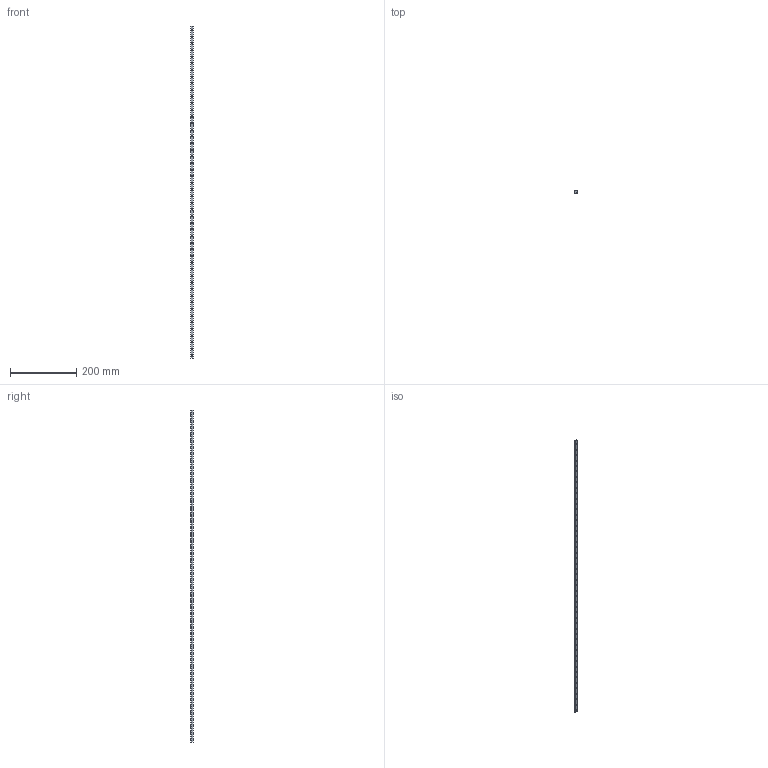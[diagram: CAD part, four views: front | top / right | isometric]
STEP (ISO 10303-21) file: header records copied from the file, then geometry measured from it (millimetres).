
FILE_DESCRIPTION (( 'STEP AP214' ), '1' );
FILE_NAME ('7.0025 Lineaarijohde MTN9 1000 mm.STEP', '2026-03-09T11:07:30', ( '' ), ( '' ), 'SwSTEP 2.0', 'SolidWorks 2025', '' );
FILE_SCHEMA (( 'AUTOMOTIVE_DESIGN' ));
Length unit declared in the file: millimetre
Products named in the file (1): 7.0025 Lineaarijohde MTN9 1000 mm
Bounding box: 9 x 6.5 x 1000 mm (x, y, z)
Volume: 48887.2 mm3; surface area: 36911 mm2
Topology: 1 solids, 1 shells, 265 faces, 639 edges, 426 vertices
Faces by surface type: cylinder 203, plane 62
Entity records: 8182 total; most frequent: DIRECTION 1577, CARTESIAN_POINT 1331, ORIENTED_EDGE 1278, AXIS2_PLACEMENT_3D 672, EDGE_CURVE 639, VERTEX_POINT 426, EDGE_LOOP 415, CIRCLE 406
